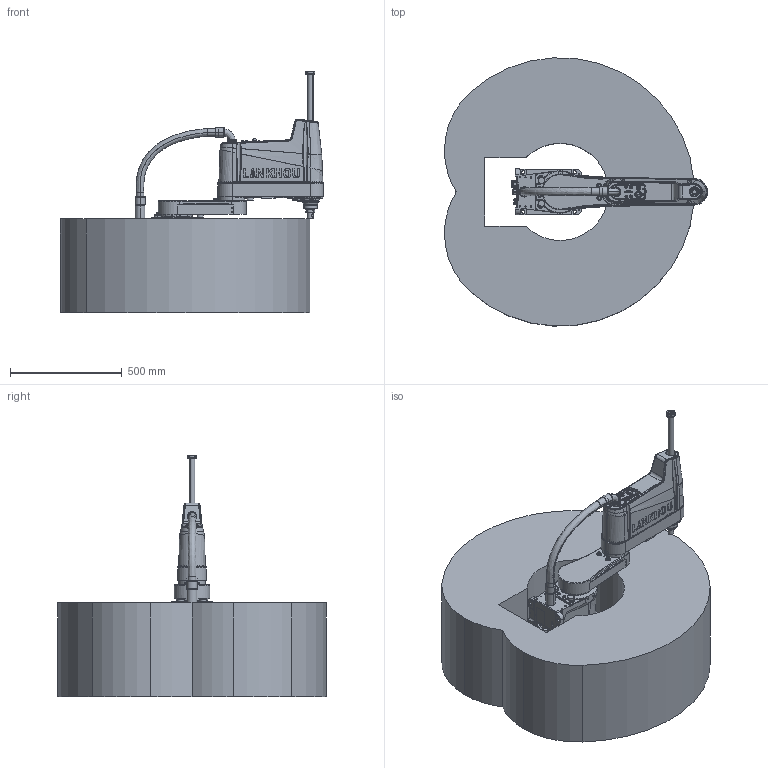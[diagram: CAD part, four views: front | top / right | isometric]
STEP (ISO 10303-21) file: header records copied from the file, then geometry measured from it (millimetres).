
FILE_DESCRIPTION (( 'STEP AP203' ), '1' );
FILE_NAME ('TM10A-R600Z42ÓÐlogo2017.step', '2023-12-22T14:11:29', ( '' ), ( '' ), 'SwSTEP 2.0', 'SolidWorks 2017', '' );
FILE_SCHEMA (( 'CONFIG_CONTROL_DESIGN' ));
Products named in the file (7): ｸｴｼ 25ﾋｿｸﾋ660ﾊﾄ｣ﾍｼ^TM10A-R600Z42ﾓﾐlogo2017; TM10A-R600Z42ÓÐlogo2017; ｸｴｼ TM10Aﾐ｡ｱﾛﾓﾐlogo^TM10A-R600Z42ﾓﾐlogo2017; ｸｴｼ ｸｴｼ TM10A-R600ｴﾛ^TM10A-R600Z42ﾓﾐlogo2017; ｸｴｼ ｸｴｼ ｸｴｼ TM10A-R600ﾔﾋｶｯｷｶﾎｧﾍｼ^TM10A-R600Z42ﾓﾐlogo2017; ｸｴｼ ｸｴｼ TM10A-ｵﾗﾗTM10A-R600Z42ﾓﾐlogo2017; ｸｴｼ ｸｴｼ TM10A-R600ﾏﾟﾊTM10A-R600Z42ﾓﾐlogo2017
Assembly tree (6 placements, depth 2):
  TM10A-R600Z42ÓÐlogo2017
    ｸｴｼ ｸｴｼ TM10A-ｵﾗﾗTM10A-R600Z42ﾓﾐlogo2017
    ｸｴｼ ｸｴｼ TM10A-R600ｴﾛ^TM10A-R600Z42ﾓﾐlogo2017
    ｸｴｼ TM10Aﾐ｡ｱﾛﾓﾐlogo^TM10A-R600Z42ﾓﾐlogo2017
    ｸｴｼ 25ﾋｿｸﾋ660ﾊﾄ｣ﾍｼ^TM10A-R600Z42ﾓﾐlogo2017
    ｸｴｼ ｸｴｼ TM10A-R600ﾏﾟﾊTM10A-R600Z42ﾓﾐlogo2017
    ｸｴｼ ｸｴｼ ｸｴｼ TM10A-R600ﾔﾋｶｯｷｶﾎｧﾍｼ^TM10A-R600Z42ﾓﾐlogo2017
Bounding box: 1176.28 x 1198.47 x 1080 mm (x, y, z)
Volume: 393547249.2 mm3; surface area: 5967580.9 mm2
Topology: 42 solids, 43 shells, 3165 faces, 8054 edges, 5086 vertices
Faces by surface type: plane 960, bspline 829, cylinder 806, cone 569, torus 1
Entity records: 185802 total; most frequent: CARTESIAN_POINT 117855, ORIENTED_EDGE 15890, DIRECTION 10964, EDGE_CURVE 7945, VERTEX_POINT 5086, AXIS2_PLACEMENT_3D 4104, EDGE_LOOP 3513, ADVANCED_FACE 3165
